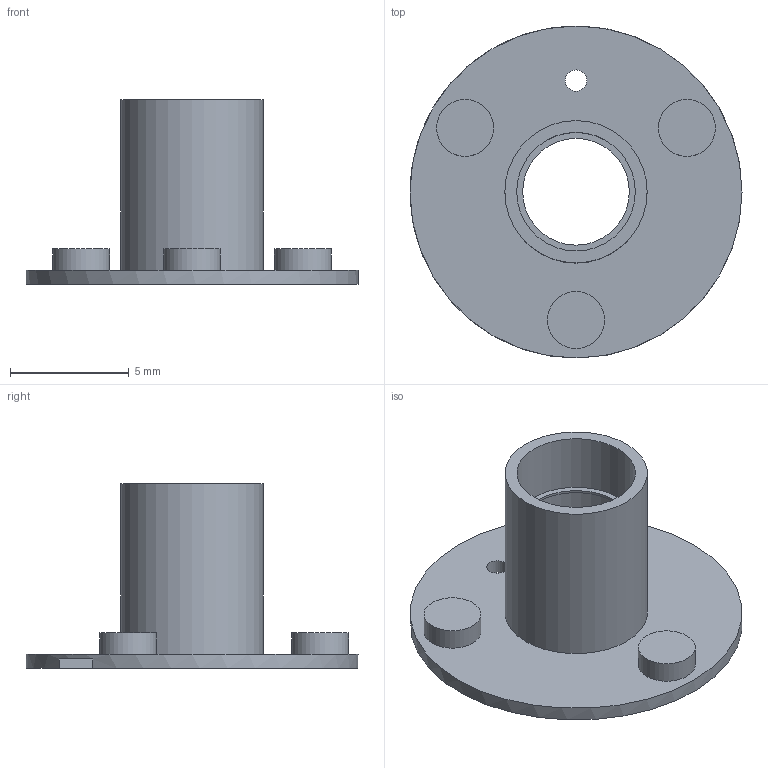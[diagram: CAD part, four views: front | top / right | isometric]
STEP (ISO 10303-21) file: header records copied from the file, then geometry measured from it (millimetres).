
FILE_DESCRIPTION(('Open CASCADE Model'),'2;1');
FILE_NAME('Open CASCADE Shape Model','2026-10-24T17:46:06',('Author'),( 'Open CASCADE'),'Open CASCADE STEP processor 8.0','Open CASCADE 8.0' ,'Unknown');
FILE_SCHEMA(('AUTOMOTIVE_DESIGN { 1 0 10303 214 1 1 1 1 }'));
Length unit declared in the file: millimetre
Products named in the file (1): Open CASCADE STEP translator 8.0 19
Bounding box: 14 x 14 x 7.8 mm (x, y, z)
Volume: 146.1 mm3; surface area: 596.2 mm2
Topology: 1 solids, 1 shells, 32 faces, 64 edges, 41 vertices
Faces by surface type: plane 17, cylinder 15
Full cylindrical faces by diameter (mm): 0.9 x1, 1.1 x3, 2.4 x3, 4.5 x1, 5 x3, 6 x1, 14 x1
Entity records: 1681 total; most frequent: DIRECTION 281, CARTESIAN_POINT 279, ORIENTED_EDGE 128, PCURVE 128, DEFINITIONAL_REPRESENTATION 128, LINE 107, VECTOR 107, CIRCLE 72
